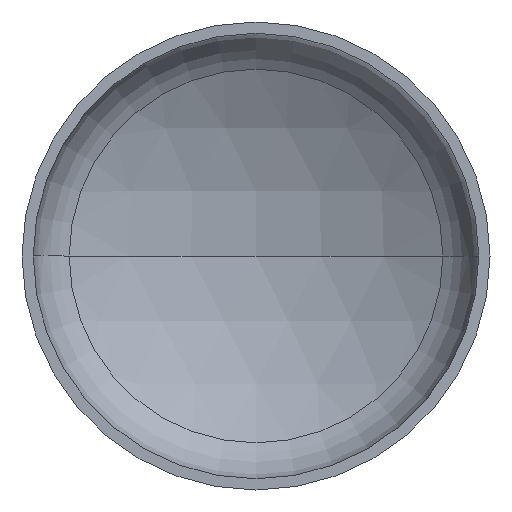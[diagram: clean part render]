
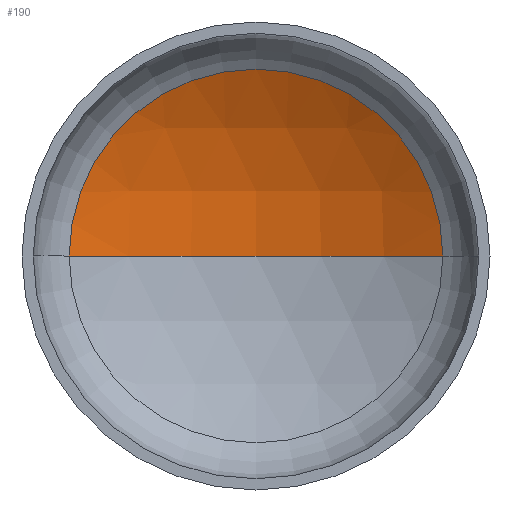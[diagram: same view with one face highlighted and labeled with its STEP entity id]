
A CAD part, front view. The second image highlights one B-rep face of the part: STEP entity #190.
In plain terms, the highlighted spherical face has radius 1200 mm.
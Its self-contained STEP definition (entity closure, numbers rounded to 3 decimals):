
#15 = EDGE_LOOP ( 'NONE', ( #82, #34, #93 ) ) ;
#16 = AXIS2_PLACEMENT_3D ( 'NONE', #379, #266, #317 ) ;
#21 = AXIS2_PLACEMENT_3D ( 'NONE', #303, #179, #392 ) ;
#22 = VERTEX_POINT ( 'NONE', #245 ) ;
#28 = CARTESIAN_POINT ( 'NONE',  ( 0., -730.621, 0. ) ) ;
#32 = DIRECTION ( 'NONE',  ( -1., 0., 0. ) ) ;
#34 = ORIENTED_EDGE ( 'NONE', *, *, #377, .T. ) ;
#39 = DIRECTION ( 'NONE',  ( 0., 0., -1. ) ) ;
#54 = AXIS2_PLACEMENT_3D ( 'NONE', #217, #182, #32 ) ;
#73 = VERTEX_POINT ( 'NONE', #287 ) ;
#82 = ORIENTED_EDGE ( 'NONE', *, *, #352, .F. ) ;
#93 = ORIENTED_EDGE ( 'NONE', *, *, #336, .T. ) ;
#98 = FACE_OUTER_BOUND ( 'NONE', #15, .T. ) ;
#110 = VERTEX_POINT ( 'NONE', #326 ) ;
#143 = SPHERICAL_SURFACE ( 'NONE', #54, 1200. ) ;
#179 = DIRECTION ( 'NONE',  ( 0., -1., 0. ) ) ;
#182 = DIRECTION ( 'NONE',  ( 0., 0., -1. ) ) ;
#190 = ADVANCED_FACE ( 'NONE', ( #98 ), #143, .F. ) ;
#209 = CIRCLE ( 'NONE', #370, 1200. ) ;
#217 = CARTESIAN_POINT ( 'NONE',  ( 0., -730.621, 0. ) ) ;
#245 = CARTESIAN_POINT ( 'NONE',  ( 0., 469.379, 0. ) ) ;
#266 = DIRECTION ( 'NONE',  ( 0., 0., 1. ) ) ;
#273 = CIRCLE ( 'NONE', #16, 1200. ) ;
#274 = DIRECTION ( 'NONE',  ( -1., 0., 0. ) ) ;
#287 = CARTESIAN_POINT ( 'NONE',  ( 598.763, 309.323, 0. ) ) ;
#303 = CARTESIAN_POINT ( 'NONE',  ( 0., 309.323, 0. ) ) ;
#317 = DIRECTION ( 'NONE',  ( 1., 0., 0. ) ) ;
#326 = CARTESIAN_POINT ( 'NONE',  ( -598.763, 309.323, 0. ) ) ;
#336 = EDGE_CURVE ( 'NONE', #73, #110, #406, .T. ) ;
#352 = EDGE_CURVE ( 'NONE', #22, #110, #273, .T. ) ;
#370 = AXIS2_PLACEMENT_3D ( 'NONE', #28, #39, #274 ) ;
#377 = EDGE_CURVE ( 'NONE', #22, #73, #209, .T. ) ;
#379 = CARTESIAN_POINT ( 'NONE',  ( 0., -730.621, 0. ) ) ;
#392 = DIRECTION ( 'NONE',  ( 1., 0., 0. ) ) ;
#406 = CIRCLE ( 'NONE', #21, 598.763 ) ;
